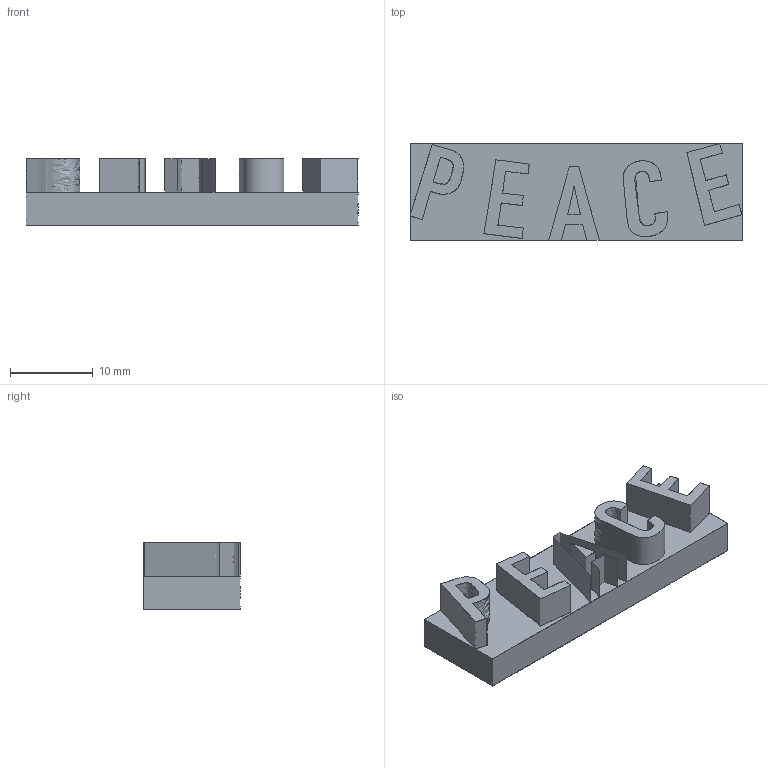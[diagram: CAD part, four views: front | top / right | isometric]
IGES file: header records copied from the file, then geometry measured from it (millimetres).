
Global section: file name: G:\PEACE\; native system: Rhinoceros ( Feb 26 2009 ); preprocessor: Trout Lake IGES 012 Feb 26 2009; date: 190401.011529; units: millimetre
Bounding box: 40 x 11.66 x 8 mm (x, y, z)
Surface area: 2253.6 mm2 (no closed solid volume)
Topology: 0 solids, 0 shells, 21 faces, 312 edges, 309 vertices
Faces by surface type: bspline 21
